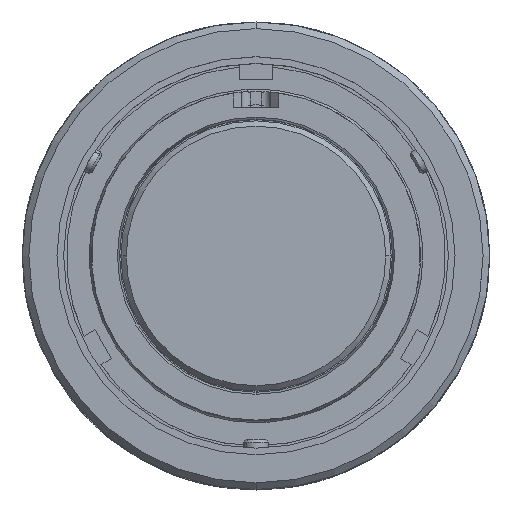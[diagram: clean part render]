
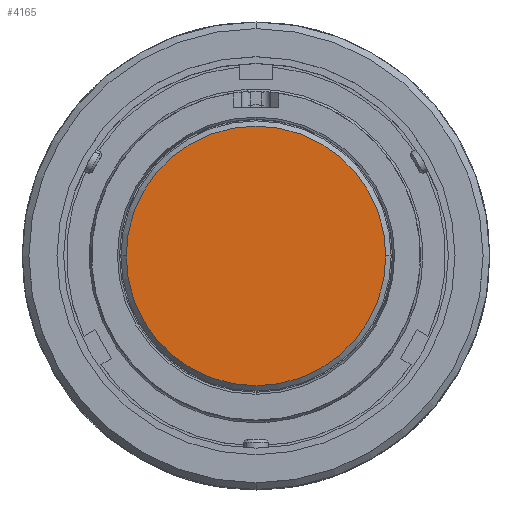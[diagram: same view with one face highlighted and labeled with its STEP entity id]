
A CAD part, top view. The second image highlights one B-rep face of the part: STEP entity #4165.
In plain terms, the highlighted planar face has unit normal (0, 0, 1).
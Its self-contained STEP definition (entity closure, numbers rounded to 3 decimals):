
#25 = CARTESIAN_POINT ( 'NONE',  ( 0., 0., -13.589 ) ) ;
#102 = CIRCLE ( 'NONE', #9001, 12.382 ) ;
#116 = CARTESIAN_POINT ( 'NONE',  ( 0., 0., -13.589 ) ) ;
#558 = VERTEX_POINT ( 'NONE', #4090 ) ;
#3353 = ORIENTED_EDGE ( 'NONE', *, *, #6177, .T. ) ;
#3610 = VERTEX_POINT ( 'NONE', #9862 ) ;
#3830 = ORIENTED_EDGE ( 'NONE', *, *, #4892, .T. ) ;
#4090 = CARTESIAN_POINT ( 'NONE',  ( -12.382, 0., -13.589 ) ) ;
#4165 = ADVANCED_FACE ( 'NONE', ( #6505 ), #9764, .T. ) ;
#4892 = EDGE_CURVE ( 'NONE', #3610, #558, #8961, .T. ) ;
#5411 = DIRECTION ( 'NONE',  ( 1., 0., 0. ) ) ;
#6177 = EDGE_CURVE ( 'NONE', #558, #3610, #102, .T. ) ;
#6505 = FACE_OUTER_BOUND ( 'NONE', #6862, .T. ) ;
#6576 = AXIS2_PLACEMENT_3D ( 'NONE', #25, #9585, #5411 ) ;
#6862 = EDGE_LOOP ( 'NONE', ( #3353, #3830 ) ) ;
#7214 = DIRECTION ( 'NONE',  ( 0., 0., 1. ) ) ;
#8205 = DIRECTION ( 'NONE',  ( 1., 0., 0. ) ) ;
#8539 = AXIS2_PLACEMENT_3D ( 'NONE', #116, #9174, #8205 ) ;
#8961 = CIRCLE ( 'NONE', #6576, 12.382 ) ;
#9001 = AXIS2_PLACEMENT_3D ( 'NONE', #10534, #7214, #10481 ) ;
#9174 = DIRECTION ( 'NONE',  ( 0., 0., 1. ) ) ;
#9585 = DIRECTION ( 'NONE',  ( 0., 0., 1. ) ) ;
#9764 = PLANE ( 'NONE',  #8539 ) ;
#9862 = CARTESIAN_POINT ( 'NONE',  ( 12.382, 0., -13.589 ) ) ;
#10481 = DIRECTION ( 'NONE',  ( 1., 0., 0. ) ) ;
#10534 = CARTESIAN_POINT ( 'NONE',  ( 0., 0., -13.589 ) ) ;
